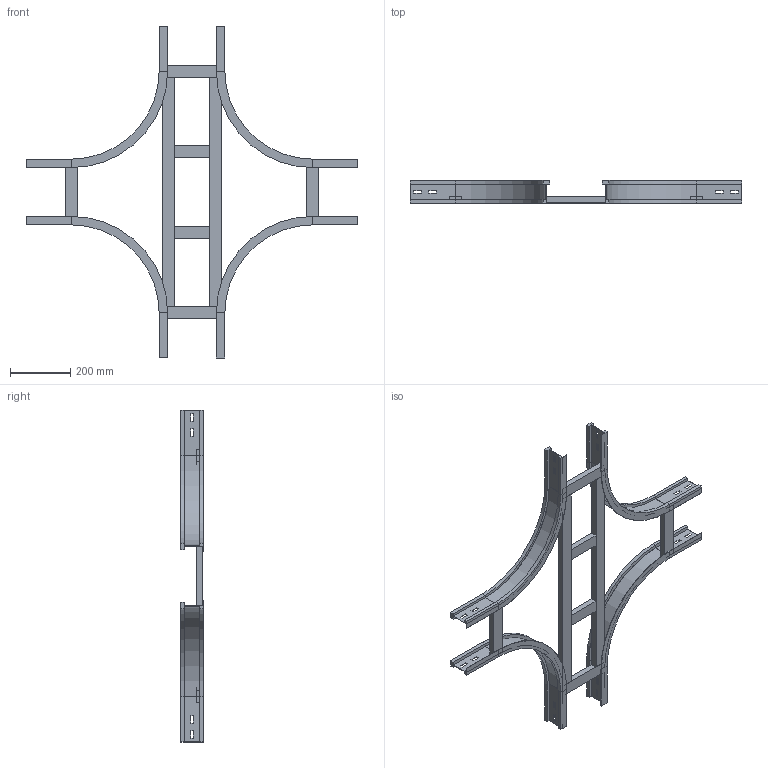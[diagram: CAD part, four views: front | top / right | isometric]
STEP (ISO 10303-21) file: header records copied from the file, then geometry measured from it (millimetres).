
FILE_DESCRIPTION (( 'STEP AP214' ), '1' );
FILE_NAME ('17S3C200.step', '2025-02-21T16:18:21', ( '' ), ( '' ), 'SwSTEP 2.0', 'SolidWorks 2023', '' );
FILE_SCHEMA (( 'AUTOMOTIVE_DESIGN' ));
Length unit declared in the file: millimetre
Products named in the file (5): 17S3C200; LONGH.INTERNO 90°_H75_R300; TRAVERSINO_200; TRAVERSINO_INTERMEDIO_X_R300+200; TRAVERSINO_LONG._R300+200
Assembly tree (12 placements, depth 2):
  17S3C200
    LONGH.INTERNO 90°_H75_R300  x4
    TRAVERSINO_200  x4
    TRAVERSINO_INTERMEDIO_X_R300+200  x2
    TRAVERSINO_LONG._R300+200  x2
Bounding box: 1100 x 75 x 1100 mm (x, y, z)
Volume: 3573701.7 mm3; surface area: 1083216.8 mm2
Topology: 12 solids, 12 shells, 264 faces, 624 edges, 384 vertices
Faces by surface type: plane 240, cylinder 24
Entity records: 2226 total; most frequent: CARTESIAN_POINT 359, DIRECTION 354, ORIENTED_EDGE 336, EDGE_CURVE 168, VECTOR 156, LINE 156, VERTEX_POINT 104, AXIS2_PLACEMENT_3D 99
